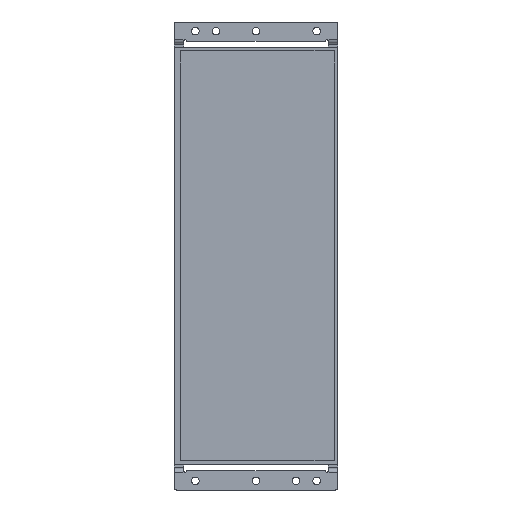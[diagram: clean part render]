
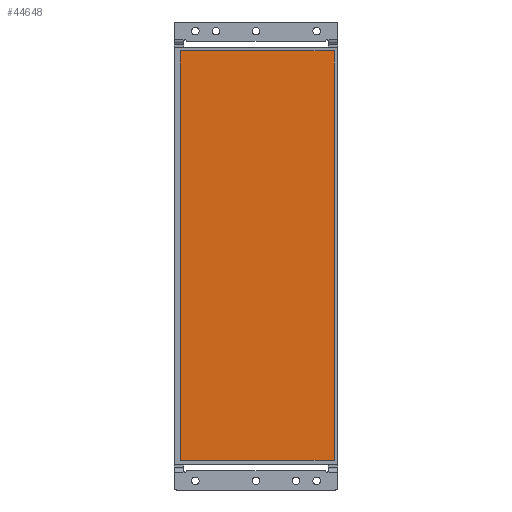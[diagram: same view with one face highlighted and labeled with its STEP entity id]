
A CAD part, front view. The second image highlights one B-rep face of the part: STEP entity #44648.
In plain terms, the highlighted planar face has unit normal (0, -1, 0).
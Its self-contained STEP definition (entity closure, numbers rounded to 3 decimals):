
#1117 = CARTESIAN_POINT ( 'NONE',  ( 67.27, 0., -178.52 ) ) ;
#16479 = VECTOR ( 'NONE', #98675, 1000. ) ;
#17211 = FACE_OUTER_BOUND ( 'NONE', #47785, .T. ) ;
#23846 = CARTESIAN_POINT ( 'NONE',  ( 67.27, 0., 179.163 ) ) ;
#28464 = VERTEX_POINT ( 'NONE', #1117 ) ;
#28676 = CARTESIAN_POINT ( 'NONE',  ( -67.27, 0., -178.52 ) ) ;
#29736 = DIRECTION ( 'NONE',  ( 0., 0., -1. ) ) ;
#32629 = CARTESIAN_POINT ( 'NONE',  ( 0., 0., 0. ) ) ;
#34779 = CARTESIAN_POINT ( 'NONE',  ( -67.27, 0., -178.52 ) ) ;
#35363 = ORIENTED_EDGE ( 'NONE', *, *, #86788, .T. ) ;
#37344 = VERTEX_POINT ( 'NONE', #91473 ) ;
#41462 = DIRECTION ( 'NONE',  ( 0., 0., 1. ) ) ;
#43590 = CARTESIAN_POINT ( 'NONE',  ( 67.27, 0., 179.163 ) ) ;
#44648 = ADVANCED_FACE ( 'NONE', ( #17211 ), #77218, .T. ) ;
#46457 = EDGE_CURVE ( 'NONE', #28464, #58584, #94590, .T. ) ;
#47785 = EDGE_LOOP ( 'NONE', ( #64906, #35363, #69204, #92279 ) ) ;
#48076 = DIRECTION ( 'NONE',  ( 0., 0., -1. ) ) ;
#51274 = EDGE_CURVE ( 'NONE', #90226, #28464, #96312, .T. ) ;
#57856 = VECTOR ( 'NONE', #41462, 1000. ) ;
#58218 = DIRECTION ( 'NONE',  ( 1., 0., 0. ) ) ;
#58584 = VERTEX_POINT ( 'NONE', #23846 ) ;
#64536 = CARTESIAN_POINT ( 'NONE',  ( 67.27, 0., -178.52 ) ) ;
#64906 = ORIENTED_EDGE ( 'NONE', *, *, #76146, .T. ) ;
#67277 = LINE ( 'NONE', #75796, #87670 ) ;
#69204 = ORIENTED_EDGE ( 'NONE', *, *, #51274, .T. ) ;
#70680 = DIRECTION ( 'NONE',  ( 0., -1., 0. ) ) ;
#74841 = AXIS2_PLACEMENT_3D ( 'NONE', #32629, #70680, #48076 ) ;
#75796 = CARTESIAN_POINT ( 'NONE',  ( -67.27, 0., 179.163 ) ) ;
#76146 = EDGE_CURVE ( 'NONE', #58584, #37344, #91159, .T. ) ;
#77218 = PLANE ( 'NONE',  #74841 ) ;
#79580 = VECTOR ( 'NONE', #58218, 1000. ) ;
#86788 = EDGE_CURVE ( 'NONE', #37344, #90226, #67277, .T. ) ;
#87670 = VECTOR ( 'NONE', #29736, 1000. ) ;
#90226 = VERTEX_POINT ( 'NONE', #28676 ) ;
#91159 = LINE ( 'NONE', #43590, #16479 ) ;
#91473 = CARTESIAN_POINT ( 'NONE',  ( -67.27, 0., 179.163 ) ) ;
#92279 = ORIENTED_EDGE ( 'NONE', *, *, #46457, .T. ) ;
#94590 = LINE ( 'NONE', #64536, #57856 ) ;
#96312 = LINE ( 'NONE', #34779, #79580 ) ;
#98675 = DIRECTION ( 'NONE',  ( -1., 0., 0. ) ) ;
